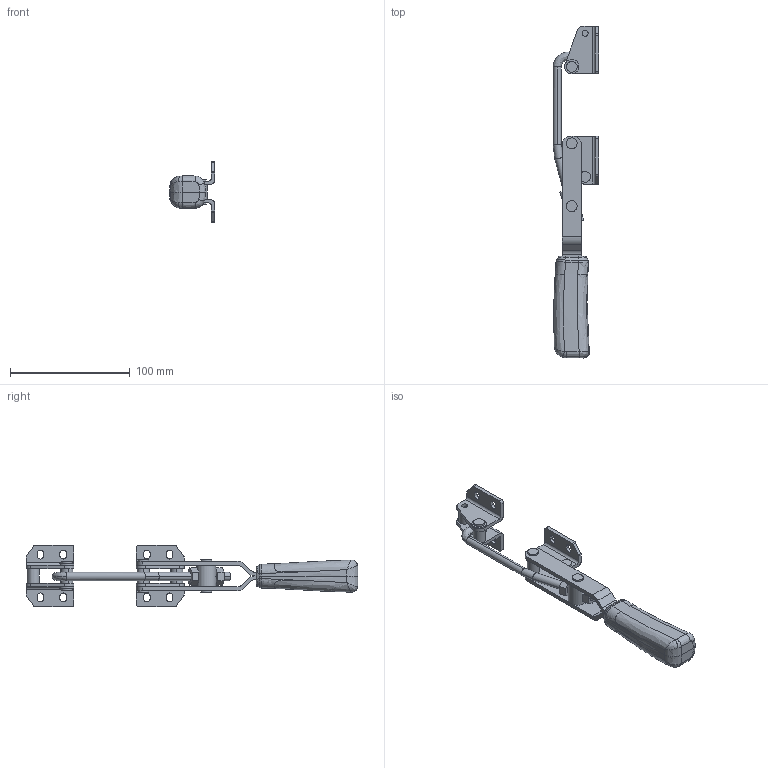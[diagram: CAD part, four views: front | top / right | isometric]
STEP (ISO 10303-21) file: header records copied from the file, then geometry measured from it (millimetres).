
FILE_DESCRIPTION (( 'STEP AP214' ), '1' );
FILE_NAME ('M46-3.STEP', '2018-02-09T09:24:32', ( '' ), ( '' ), 'SwSTEP 2.0', 'SolidWorks 2015', '' );
FILE_SCHEMA (( 'AUTOMOTIVE_DESIGN' ));
Length unit declared in the file: millimetre
Products named in the file (14): 847-3-7 pim; 847-3-3 ayak; 847-3-2 ayak; M46-3; 3; 847-3-11; 847-3-12; 847-3-10; 847-3-8 pul; 847-3-5 somun; 847-3-4 kanca; 847-3-6; 847-3-1 kol; 847-3-7 halka
Assembly tree (20 placements, depth 2):
  M46-3
    847-3-2 ayak  x2
    847-3-3 ayak  x2
    847-3-7 pim  x2
    847-3-7 halka  x2
    847-3-1 kol
    847-3-6
    847-3-4 kanca
    847-3-5 somun  x2
    847-3-8 pul  x2
    847-3-10  x2
    847-3-12
    847-3-11
    3
Bounding box: 38.27 x 277.32 x 51.33 mm (x, y, z)
Volume: 98634.9 mm3; surface area: 45983.3 mm2
Topology: 20 solids, 20 shells, 335 faces, 823 edges, 530 vertices
Faces by surface type: cylinder 132, plane 129, bspline 74
Entity records: 13738 total; most frequent: CARTESIAN_POINT 5231, ORIENTED_EDGE 1162, DIRECTION 972, EDGE_CURVE 581, VERTEX_POINT 370, AXIS2_PLACEMENT_3D 357, UNCERTAINTY_MEASURE_WITH_UNIT 279, EDGE_LOOP 277
